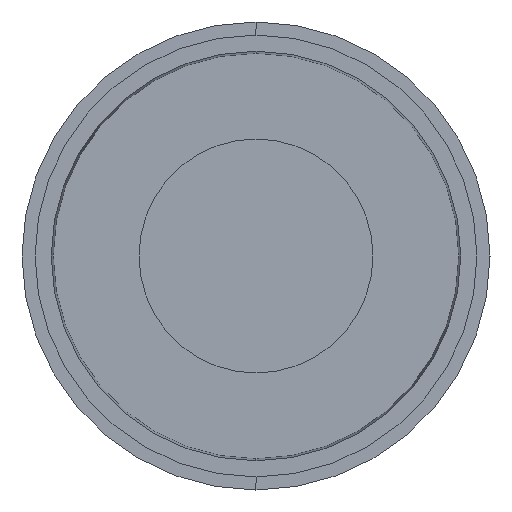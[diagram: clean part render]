
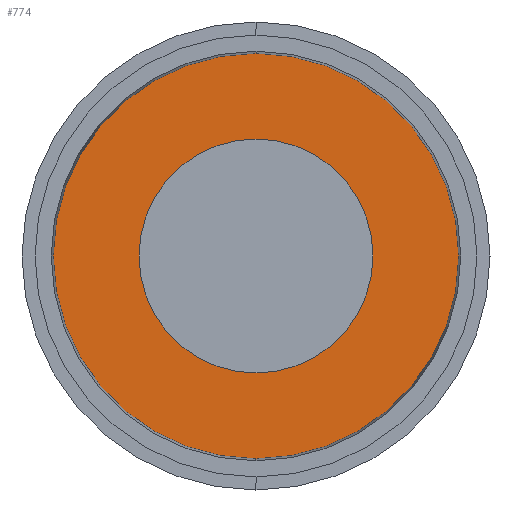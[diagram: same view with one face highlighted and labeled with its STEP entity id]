
A CAD part, left-side view. The second image highlights one B-rep face of the part: STEP entity #774.
In plain terms, the highlighted planar face has unit normal (-1, 0, 0).
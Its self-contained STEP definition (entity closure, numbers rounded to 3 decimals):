
#14 = EDGE_LOOP ( 'NONE', ( #382, #1287 ) ) ;
#17 = VERTEX_POINT ( 'NONE', #311 ) ;
#19 = CARTESIAN_POINT ( 'NONE',  ( 2., 0., 4. ) ) ;
#32 = AXIS2_PLACEMENT_3D ( 'NONE', #1068, #1062, #1056 ) ;
#41 = FACE_BOUND ( 'NONE', #1304, .T. ) ;
#93 = EDGE_CURVE ( 'NONE', #477, #920, #558, .T. ) ;
#133 = CIRCLE ( 'NONE', #752, 4. ) ;
#136 = CARTESIAN_POINT ( 'NONE',  ( 2., 0., 6.93 ) ) ;
#181 = AXIS2_PLACEMENT_3D ( 'NONE', #266, #247, #244 ) ;
#242 = CARTESIAN_POINT ( 'NONE',  ( 2., 0., -6.93 ) ) ;
#244 = DIRECTION ( 'NONE',  ( 0., 0., 1. ) ) ;
#247 = DIRECTION ( 'NONE',  ( -1., 0., 0. ) ) ;
#249 = CIRCLE ( 'NONE', #181, 6.93 ) ;
#266 = CARTESIAN_POINT ( 'NONE',  ( 2., 0., 0. ) ) ;
#311 = CARTESIAN_POINT ( 'NONE',  ( 2., 0., -4. ) ) ;
#330 = FACE_OUTER_BOUND ( 'NONE', #14, .T. ) ;
#382 = ORIENTED_EDGE ( 'NONE', *, *, #93, .T. ) ;
#415 = DIRECTION ( 'NONE',  ( 0., 0., 1. ) ) ;
#461 = ORIENTED_EDGE ( 'NONE', *, *, #593, .F. ) ;
#477 = VERTEX_POINT ( 'NONE', #136 ) ;
#532 = CARTESIAN_POINT ( 'NONE',  ( 2., 0., 0. ) ) ;
#553 = VERTEX_POINT ( 'NONE', #19 ) ;
#558 = CIRCLE ( 'NONE', #633, 6.93 ) ;
#593 = EDGE_CURVE ( 'NONE', #553, #17, #1012, .T. ) ;
#633 = AXIS2_PLACEMENT_3D ( 'NONE', #532, #1134, #415 ) ;
#640 = EDGE_CURVE ( 'NONE', #920, #477, #249, .T. ) ;
#752 = AXIS2_PLACEMENT_3D ( 'NONE', #1138, #1126, #1118 ) ;
#774 = ADVANCED_FACE ( 'NONE', ( #41, #330 ), #1312, .T. ) ;
#920 = VERTEX_POINT ( 'NONE', #242 ) ;
#1012 = CIRCLE ( 'NONE', #32, 4. ) ;
#1056 = DIRECTION ( 'NONE',  ( 0., 0., 1. ) ) ;
#1062 = DIRECTION ( 'NONE',  ( -1., 0., 0. ) ) ;
#1068 = CARTESIAN_POINT ( 'NONE',  ( 2., 0., 0. ) ) ;
#1107 = DIRECTION ( 'NONE',  ( 0., 0., 1. ) ) ;
#1118 = DIRECTION ( 'NONE',  ( 0., 0., 1. ) ) ;
#1121 = CARTESIAN_POINT ( 'NONE',  ( 2., 0., 0. ) ) ;
#1126 = DIRECTION ( 'NONE',  ( -1., 0., 0. ) ) ;
#1134 = DIRECTION ( 'NONE',  ( -1., 0., 0. ) ) ;
#1138 = CARTESIAN_POINT ( 'NONE',  ( 2., 0., 0. ) ) ;
#1141 = EDGE_CURVE ( 'NONE', #17, #553, #133, .T. ) ;
#1152 = AXIS2_PLACEMENT_3D ( 'NONE', #1121, #1210, #1107 ) ;
#1210 = DIRECTION ( 'NONE',  ( -1., 0., 0. ) ) ;
#1287 = ORIENTED_EDGE ( 'NONE', *, *, #640, .T. ) ;
#1304 = EDGE_LOOP ( 'NONE', ( #461, #1320 ) ) ;
#1312 = PLANE ( 'NONE',  #1152 ) ;
#1320 = ORIENTED_EDGE ( 'NONE', *, *, #1141, .F. ) ;
